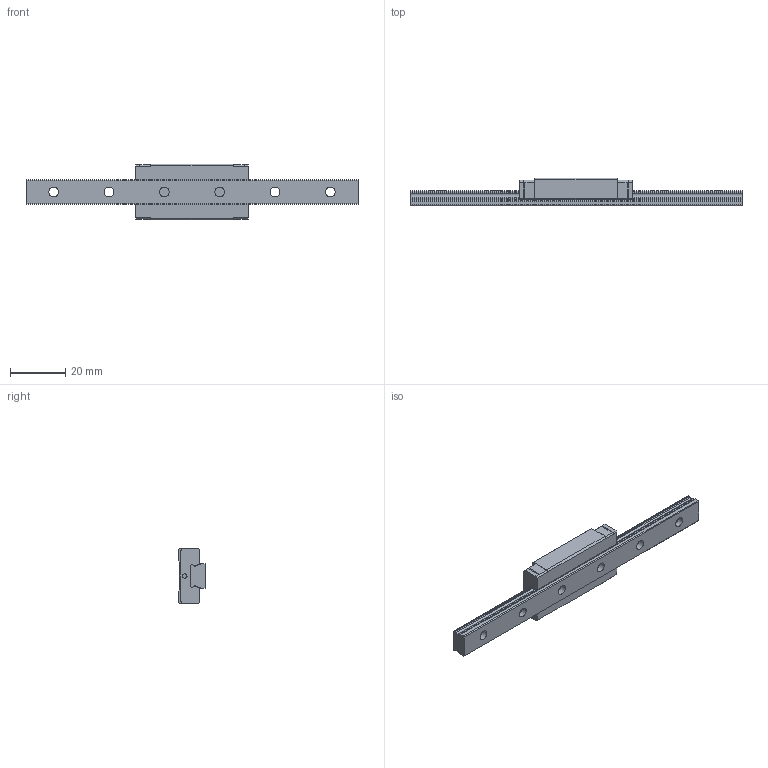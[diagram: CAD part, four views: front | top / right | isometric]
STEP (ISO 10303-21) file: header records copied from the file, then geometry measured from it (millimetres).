
FILE_DESCRIPTION(/* description */ ('STEP AP203'),/* implementation_level */ '2;1');
FILE_NAME(/* name */ 'RSX9NMUU-120LM_G10_0_Without grease nipple_39-6_0_0_0_1',/* time_stamp */ '2024-05-21T10:25:30+02:00',/* author */ ('License CC BY-ND 4.0'),/* organization */ ('CADENAS'),/* preprocessor_version */ 'ST-DEVELOPER v19.3',/* originating_system */ 'PARTsolutions',/* authorisation */ ' ');
FILE_SCHEMA (('CONFIG_CONTROL_DESIGN'));
Length unit declared in the file: millimetre
Products named in the file (3): RSX9NMUU-120LM_G10_0_Without grease nipple_39-6_0_0_0_1; RSX9M12010 Track; RSX9NMUU1 Slider
Assembly tree (2 placements, depth 2):
  RSX9NMUU-120LM_G10_0_Without grease nipple_39-6_0_0_0_1
    RSX9M12010 Track
    RSX9NMUU1 Slider
Bounding box: 120 x 10 x 20 mm (x, y, z)
Volume: 9602.9 mm3; surface area: 6824 mm2
Topology: 2 solids, 2 shells, 130 faces, 350 edges, 232 vertices
Faces by surface type: plane 80, cylinder 42, cone 8
Full cylindrical faces by diameter (mm): 1.6 x2, 2.459 x4, 3.5 x6, 6 x6
Entity records: 3983 total; most frequent: CARTESIAN_POINT 677, DIRECTION 670, ORIENTED_EDGE 632, EDGE_CURVE 316, LINE 228, VECTOR 228, VERTEX_POINT 228, AXIS2_PLACEMENT_3D 221
